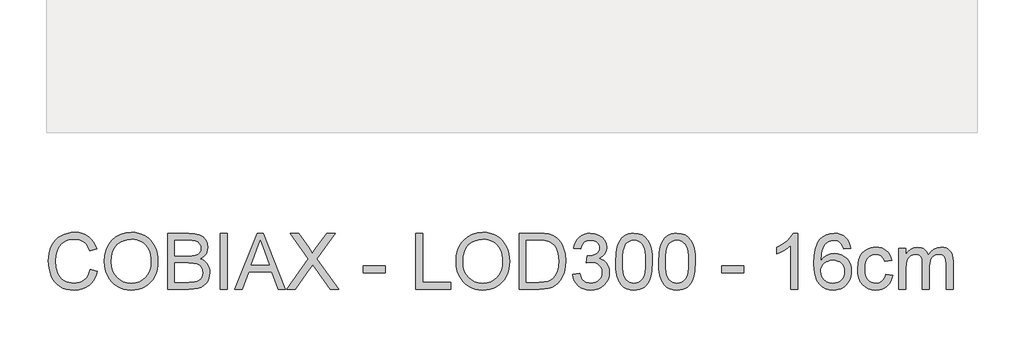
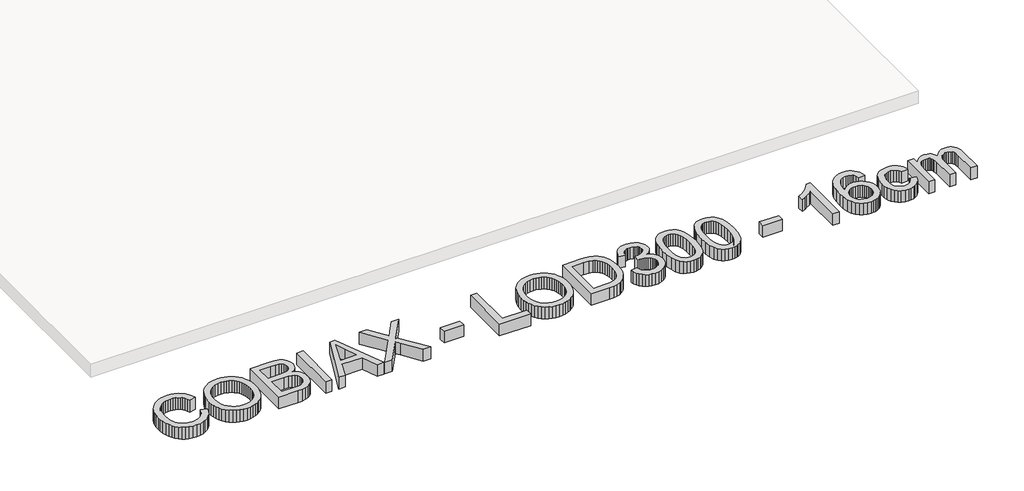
# One storey, part 16 of 18: 1 proxy.
"""IFC4 building model written with IfcOpenShell, lengths in millimetres."""

from ifc_helpers import new_model, si_unit, origin, origin_with_axes, place, context, project, spatial, polyline, outline, extrude, element, save

model = new_model("IFC4")

# Units and contexts
model_context = context("Model", 3, world=origin())
ifc_project = project(units=[si_unit("LENGTHUNIT", "METRE", prefix="MILLI")], contexts=[model_context])

# Site, building, storey
site = spatial("IfcSite", under=ifc_project)
building = spatial("IfcBuilding", under=site)
storey = spatial("IfcBuildingStorey", under=building, Name="COBIAX Slabs", Elevation=0.0)

# Proxy
placement = place(None, origin())
element("IfcBuildingElementProxy", 1, Name="600mm Arial", ObjectType="600mm Arial", at=placement, inside=storey, context=model_context, shape_type="SweptSolid", body=[
    extrude(outline(polyline([(-20201.7846047, 9905.258219), (-20126.4423721, 9885.8340497), (-20141.35079, 9838.9796791), (-20161.2072206, 9798.0390115), (-20186.0116642, 9763.0120471), (-20215.7641205, 9733.8987857), (-20249.7932051, 9711.0119271), (-20287.4275332, 9694.6641709), (-20328.6671048, 9684.8555172), (-20373.5119201, 9681.585966), (-20419.4557827, 9684.0599724), (-20460.902288, 9691.4819916), (-20497.8514359, 9703.8520237), (-20530.3032264, 9721.1700687), (-20558.7037164, 9743.178609), (-20583.4989629, 9769.6201274), (-20604.6889658, 9800.4946239), (-20622.2737252, 9835.8020983), (-20636.0830956, 9874.0158406), (-20645.9469316, 9913.6091403), (-20651.8652332, 9954.5819975), (-20653.8380004, 9996.9344122), (-20651.6077158, 10042.3770357), (-20644.916862, 10084.8214209), (-20633.765439, 10124.2675678), (-20618.1534469, 10160.7154765), (-20598.4303734, 10193.5627401), (-20574.9457065, 10222.206952), (-20547.6994462, 10246.648112), (-20516.6915926, 10266.8862203), (-20482.9752077, 10282.7557299), (-20447.6033539, 10294.0910938), (-20410.5760311, 10300.8923122), (-20371.8932393, 10303.159385), (-20328.8004621, 10300.2255261), (-20289.2853373, 10291.4239494), (-20253.3478649, 10276.7546548), (-20220.9880449, 10256.2176424), (-20192.7393062, 10230.3555382), (-20169.1350776, 10199.710968), (-20150.1753593, 10164.2839318), (-20135.8601512, 10124.0744298), (-20211.2023838, 10106.1217884), (-20223.0665781, 10135.7500846), (-20237.3220054, 10161.0649644), (-20253.9686657, 10182.0664278), (-20273.006559, 10198.7544748), (-20294.5460498, 10211.4693962), (-20318.6975028, 10220.551483), (-20345.4609179, 10226.0007351), (-20374.8362952, 10227.8171524), (-20408.6354535, 10225.8029985), (-20439.5467382, 10219.7605367), (-20467.5701492, 10209.6897671), (-20492.7056865, 10195.5906896), (-20514.6360519, 10178.0979008), (-20533.0439473, 10157.8459969), (-20547.9293725, 10134.8349781), (-20559.2923276, 10109.0648444), (-20573.6949077, 10053.9193333), (-20578.4957678, 9997.081565), (-20572.8119909, 9927.4782915), (-20565.7072699, 9896.208322), (-20555.7606605, 9867.2927971), (-20542.8112142, 9841.3065327), (-20526.6979829, 9818.8243443), (-20507.4209663, 9799.8462318), (-20484.9801646, 9784.3721954), (-20460.4654281, 9772.3654468), (-20434.9666074, 9763.7891978), (-20408.4837022, 9758.6434484), (-20381.0167128, 9756.9281986), (-20348.2614196, 9759.2642493), (-20318.1272857, 9766.2724013), (-20290.614311, 9777.9526546), (-20265.7224955, 9794.3050093), (-20244.0404504, 9815.2558889), (-20226.1567869, 9840.7317171), (-20212.071505, 9870.7324938), (-20201.7846047, 9905.258219)])), origin_with_axes(), (0.0, 0.0, 1.0), 150.0),
    extrude(outline(polyline([(-20051.1001395, 9984.4264244), (-20046.0785503, 10055.1241468), (-20031.0137825, 10117.7100713), (-20005.9058364, 10172.1841977), (-19989.5856714, 10196.3793367), (-19970.7547117, 10218.5465261), (-19927.6665331, 10255.5646519), (-19878.7474247, 10282.0061703), (-19823.9973868, 10297.8710813), (-19763.4164193, 10303.159385), (-19722.8666263, 10300.6761816), (-19684.3585785, 10293.2265712), (-19647.8922757, 10280.8105538), (-19613.467718, 10263.4281295), (-19582.0505956, 10241.6035302), (-19554.6065988, 10215.8609876), (-19531.1357275, 10186.2005017), (-19511.6379818, 10152.6220726), (-19496.3156967, 10115.8890554), (-19485.3712073, 10076.7648052), (-19478.8045137, 10035.249322), (-19476.6156158, 9991.3426059), (-19478.9194768, 9946.8564756), (-19485.8310598, 9904.7799724), (-19497.3503648, 9865.1130963), (-19513.4773917, 9827.8558473), (-19533.8304631, 9793.9923096), (-19558.0279014, 9764.5065677), (-19586.0697064, 9739.3986215), (-19617.9558784, 9718.6684711), (-19652.4310198, 9702.4448751), (-19688.2397335, 9690.8565922), (-19725.3820195, 9683.9036225), (-19763.8578777, 9681.585966), (-19805.1158434, 9684.1473444), (-19844.129729, 9691.8314795), (-19880.8995344, 9704.6383715), (-19915.4252597, 9722.5680202), (-19946.8055939, 9744.9260485), (-19974.1392261, 9771.018079), (-19997.4261564, 9800.8441118), (-20016.6663847, 9834.4041468), (-20031.7311524, 9870.3508162), (-20042.4917008, 9907.3367523), (-20048.9480298, 9945.361955), (-20051.1001395, 9984.4264244)]), holes=[polyline([(-19975.7579069, 9983.6906604), (-19971.9917149, 9933.7414825), (-19960.6931392, 9889.402505), (-19941.8621795, 9850.673728), (-19915.4988361, 9817.5551514), (-19883.4517158, 9791.0308595), (-19847.5694257, 9772.0849368), (-19807.8519657, 9760.7173831), (-19764.299336, 9756.9281986), (-19720.0017453, 9760.7541713), (-19679.8152359, 9772.2320896), (-19643.7398077, 9791.3619533), (-19611.7754608, 9818.1437626), (-19585.6052554, 9851.961315), (-19566.9122515, 9892.1984082), (-19555.6964492, 9938.8550422), (-19551.9578484, 9991.9312171), (-19553.5581351, 10026.4109571), (-19558.3589951, 10058.6282228), (-19566.3604285, 10088.5830143), (-19577.5624353, 10116.2753315), (-19591.8408552, 10141.3418909), (-19609.0715282, 10163.4194092), (-19629.2544541, 10182.5078862), (-19652.3896331, 10198.607322), (-19677.7596952, 10211.3866228), (-19704.6472705, 10220.5146948), (-19733.0523591, 10225.991538), (-19762.9749609, 10227.8171524), (-19805.0146759, 10224.2992808), (-19844.0193644, 10213.7456661), (-19879.9890265, 10196.1563082), (-19912.9236621, 10171.5312071), (-19940.4136442, 10138.6839435), (-19960.0493457, 10096.4280978), (-19971.8307666, 10044.7636701), (-19975.7579069, 9983.6906604)])]), origin_with_axes(), (0.0, 0.0, 1.0), 150.0),
    extrude(outline(polyline([(-19373.020046, 9691.003745), (-19373.020046, 10293.7416059), (-19143.0202226, 10293.7416059), (-19079.7629135, 10289.3086279), (-19030.3747557, 10276.0096938), (-19010.2975958, 10265.9527197), (-18992.5196984, 10253.5137098), (-18977.0410634, 10238.6926639), (-18963.8616909, 10221.4895821), (-18945.8170791, 10183.8184658), (-18939.8022085, 10144.3815159), (-18944.8605859, 10108.0899571), (-18960.0357182, 10073.968902), (-18985.43797, 10044.1152781), (-19021.1777058, 10020.6260127), (-18998.438, 10010.9323222), (-18978.4850002, 9998.3323638), (-18961.3187066, 9982.8261377), (-18946.9391192, 9964.4136439), (-18935.576164, 9943.6559023), (-18927.4597675, 9921.113933), (-18922.5899296, 9896.7877361), (-18920.9666503, 9870.6773115), (-18925.3996283, 9828.6467935), (-18938.6985625, 9789.6696962), (-18958.5457961, 9756.5235284), (-18982.6236727, 9731.9857993), (-19012.1094146, 9714.2170989), (-19048.1802442, 9701.3780173), (-19092.013384, 9693.5973131), (-19144.7860562, 9691.003745), (-19373.020046, 9691.003745)]), holes=[polyline([(-19297.6778134, 10048.87935), (-19160.0899472, 10048.87935), (-19111.9709822, 10050.4980307), (-19079.7445194, 10055.3540731), (-19051.6199409, 10066.5192916), (-19031.4048253, 10083.2395283), (-19019.2095371, 10105.2572657), (-19015.1444411, 10132.3149865), (-19018.9336256, 10158.5817609), (-19030.3011793, 10181.464021), (-19048.7320672, 10199.3246919), (-19073.7112547, 10210.5266986), (-19112.0445586, 10216.4312047), (-19170.5377958, 10218.3993733), (-19297.6778134, 10218.3993733), (-19297.6778134, 10048.87935)]), polyline([(-19297.6778134, 9766.3459777), (-19143.1673754, 9766.3459777), (-19087.2493121, 9769.2890336), (-19061.2952374, 9775.818939), (-19039.9396875, 9785.6965706), (-19022.5756574, 9799.8416333), (-19008.5961416, 9819.1738322), (-18999.3806976, 9842.8286445), (-18996.3088829, 9869.9415475), (-18999.9141265, 9901.4322463), (-19010.7298571, 9928.5083611), (-19029.6205976, 9949.67997), (-19057.4508705, 9963.4571507), (-19096.8694263, 9971.0171257), (-19150.5250153, 9973.5371173), (-19297.6778134, 9973.5371173), (-19297.6778134, 9766.3459777)])]), origin_with_axes(), (0.0, 0.0, 1.0), 150.0),
    extrude(outline(polyline([(-18807.9533014, 9691.003745), (-18807.9533014, 10293.7416059), (-18732.6110688, 10293.7416059), (-18732.6110688, 9691.003745), (-18807.9533014, 9691.003745)])), origin_with_axes(), (0.0, 0.0, 1.0), 150.0),
    extrude(outline(polyline([(-18652.1184882, 9691.003745), (-18411.5236634, 10293.7416059), (-18347.3650434, 10293.7416059), (-18106.7702186, 9691.003745), (-18186.3798823, 9691.003745), (-18255.3945446, 9879.3593266), (-18503.641315, 9879.3593266), (-18572.5088245, 9691.003745), (-18652.1184882, 9691.003745)]), holes=[polyline([(-18475.9765889, 9954.7015592), (-18282.9121179, 9954.7015592), (-18337.2115004, 10102.8844268), (-18379.4443534, 10218.3993733), (-18416.9683169, 10115.8338731), (-18475.9765889, 9954.7015592)])]), origin_with_axes(), (0.0, 0.0, 1.0), 150.0),
    extrude(outline(polyline([(-18092.2020916, 9691.003745), (-17859.8478234, 10019.4487903), (-18054.5309753, 10293.7416059), (-17964.1791572, 10293.7416059), (-17854.5503227, 10139.3783208), (-17828.3939128, 10100.2724647), (-17817.6149704, 10079.1928264), (-17774.3520477, 10140.4083904), (-17665.9004356, 10293.7416059), (-17574.2242424, 10293.7416059), (-17768.9073942, 10018.5658736), (-17536.5531261, 9691.003745), (-17626.9049441, 9691.003745), (-17781.7096876, 9909.3784974), (-17813.9361504, 9954.7015592), (-17849.3999748, 9904.9639134), (-18000.5258984, 9691.003745), (-18092.2020916, 9691.003745)])), origin_with_axes(), (0.0, 0.0, 1.0), 150.0),
    extrude(outline(polyline([(-17272.8553119, 9869.9415475), (-17272.8553119, 9945.2837801), (-17037.410835, 9945.2837801), (-17037.410835, 9869.9415475), (-17272.8553119, 9869.9415475)])), origin_with_axes(), (0.0, 0.0, 1.0), 150.0),
    extrude(outline(polyline([(-16707.7885673, 9691.003745), (-16707.7885673, 10293.7416059), (-16632.4463347, 10293.7416059), (-16632.4463347, 9766.3459777), (-16331.0774043, 9766.3459777), (-16331.0774043, 9691.003745), (-16707.7885673, 9691.003745)])), origin_with_axes(), (0.0, 0.0, 1.0), 150.0),
    extrude(outline(polyline([(-16274.5707298, 9984.4264244), (-16269.5491406, 10055.1241468), (-16254.4843729, 10117.7100713), (-16229.3764267, 10172.1841977), (-16213.0562617, 10196.3793367), (-16194.2253021, 10218.5465261), (-16151.1371234, 10255.5646519), (-16102.2180151, 10282.0061703), (-16047.4679771, 10297.8710813), (-15986.8870096, 10303.159385), (-15946.3372167, 10300.6761816), (-15907.8291688, 10293.2265712), (-15871.362866, 10280.8105538), (-15836.9383083, 10263.4281295), (-15805.5211859, 10241.6035302), (-15778.0771891, 10215.8609876), (-15754.6063178, 10186.2005017), (-15735.1085721, 10152.6220726), (-15719.786287, 10115.8890554), (-15708.8417976, 10076.7648052), (-15702.275104, 10035.249322), (-15700.0862061, 9991.3426059), (-15702.3900671, 9946.8564756), (-15709.3016501, 9904.7799724), (-15720.8209551, 9865.1130963), (-15736.947982, 9827.8558473), (-15757.3010534, 9793.9923096), (-15781.4984917, 9764.5065677), (-15809.5402967, 9739.3986215), (-15841.4264687, 9718.6684711), (-15875.9016102, 9702.4448751), (-15911.7103239, 9690.8565922), (-15948.8526098, 9683.9036225), (-15987.328468, 9681.585966), (-16028.5864337, 9684.1473444), (-16067.6003193, 9691.8314795), (-16104.3701247, 9704.6383715), (-16138.89585, 9722.5680202), (-16170.2761842, 9744.9260485), (-16197.6098164, 9771.018079), (-16220.8967467, 9800.8441118), (-16240.1369751, 9834.4041468), (-16255.2017428, 9870.3508162), (-16265.9622911, 9907.3367523), (-16272.4186201, 9945.361955), (-16274.5707298, 9984.4264244)]), holes=[polyline([(-16199.2284972, 9983.6906604), (-16195.4623053, 9933.7414825), (-16184.1637295, 9889.402505), (-16165.3327699, 9850.673728), (-16138.9694264, 9817.5551514), (-16106.9223061, 9791.0308595), (-16071.040016, 9772.0849368), (-16031.3225561, 9760.7173831), (-15987.7699264, 9756.9281986), (-15943.4723356, 9760.7541713), (-15903.2858262, 9772.2320896), (-15867.210398, 9791.3619533), (-15835.2460512, 9818.1437626), (-15809.0758457, 9851.961315), (-15790.3828418, 9892.1984082), (-15779.1670395, 9938.8550422), (-15775.4284387, 9991.9312171), (-15777.0287254, 10026.4109571), (-15781.8295855, 10058.6282228), (-15789.8310189, 10088.5830143), (-15801.0330256, 10116.2753315), (-15815.3114455, 10141.3418909), (-15832.5421185, 10163.4194092), (-15852.7250445, 10182.5078862), (-15875.8602234, 10198.607322), (-15901.2302855, 10211.3866228), (-15928.1178608, 10220.5146948), (-15956.5229494, 10225.991538), (-15986.4455512, 10227.8171524), (-16028.4852662, 10224.2992808), (-16067.4899547, 10213.7456661), (-16103.4596168, 10196.1563082), (-16136.3942524, 10171.5312071), (-16163.8842345, 10138.6839435), (-16183.519936, 10096.4280978), (-16195.3013569, 10044.7636701), (-16199.2284972, 9983.6906604)])]), origin_with_axes(), (0.0, 0.0, 1.0), 150.0),
    extrude(outline(polyline([(-15596.4906363, 9691.003745), (-15596.4906363, 10293.7416059), (-15388.5637326, 10293.7416059), (-15326.4284636, 10291.5711022), (-15280.9950372, 10285.0595909), (-15232.9496487, 10268.3209601), (-15192.4090528, 10241.943821), (-15170.0694186, 10220.3859361), (-15150.7280227, 10196.032148), (-15134.3848651, 10168.8824568), (-15121.0399457, 10138.9368624), (-15110.6748705, 10106.4712763), (-15103.2712454, 10071.7616101), (-15097.3483452, 9995.6100371), (-15101.358259, 9930.9179882), (-15113.3880002, 9873.9882494), (-15131.7085236, 9825.5197966), (-15154.5907837, 9786.2116054), (-15180.9311345, 9755.1807591), (-15209.6259302, 9731.5443409), (-15242.5697628, 9714.0147638), (-15281.6572248, 9701.3044409), (-15326.9618925, 9693.578919), (-15378.5573423, 9691.003745), (-15596.4906363, 9691.003745)]), holes=[polyline([(-15521.1484037, 9766.3459777), (-15387.8279686, 9766.3459777), (-15332.6824575, 9769.0683044), (-15290.8542747, 9777.2352847), (-15259.2899995, 9790.3686719), (-15234.9362114, 9807.9902195), (-15208.7614075, 9840.6029584), (-15189.0981148, 9882.8174173), (-15176.7924621, 9934.8175374), (-15172.6905778, 9996.7872594), (-15174.7001332, 10040.5284287), (-15180.7287994, 10078.8985208), (-15190.7765764, 10111.8975357), (-15204.8434642, 10139.5254736), (-15221.7890286, 10162.4077337), (-15240.4728355, 10181.1697154), (-15260.8948847, 10195.8114188), (-15283.0551764, 10206.3328439), (-15326.3916754, 10215.382741), (-15389.8881078, 10218.3993733), (-15521.1484037, 10218.3993733), (-15521.1484037, 9766.3459777)])]), origin_with_axes(), (0.0, 0.0, 1.0), 150.0),
    extrude(outline(polyline([(-15022.0061126, 9851.1059893), (-14946.66388, 9860.5237684), (-14929.7964905, 9813.1773556), (-14918.4243384, 9795.2706995), (-14905.0932146, 9781.2084103), (-14889.4996165, 9770.5858177), (-14871.3400415, 9762.9982515), (-14850.6144896, 9758.4457118), (-14827.3229608, 9756.9281986), (-14800.0261167, 9759.0159289), (-14775.6723287, 9765.2791199), (-14754.2615965, 9775.7177715), (-14735.7939204, 9790.3318837), (-14720.9222907, 9808.0270077), (-14710.2996981, 9827.7086945), (-14703.9261425, 9849.376944), (-14701.801624, 9873.0317563), (-14703.9077484, 9895.5599299), (-14710.2261217, 9916.0555556), (-14720.7567438, 9934.5186332), (-14735.4996148, 9950.9491628), (-14753.4890443, 9964.4366365), (-14773.7593423, 9974.0705462), (-14796.3105086, 9979.8508921), (-14821.1425433, 9981.777674), (-14844.9445083, 9979.7175349), (-14873.9703978, 9973.5371173), (-14865.5826883, 10048.87935), (-14853.5161588, 10047.9964332), (-14808.377038, 10053.4042985), (-14768.0203832, 10069.6278945), (-14751.4105111, 10081.896759), (-14739.5463167, 10097.0718913), (-14732.4278001, 10115.1532914), (-14730.0549612, 10136.1409592), (-14731.7748096, 10153.1784941), (-14736.9343546, 10168.6801217), (-14745.5335962, 10182.6458419), (-14757.5725345, 10195.0756548), (-14772.3246025, 10205.2797817), (-14789.0632333, 10212.5684437), (-14828.5001832, 10218.3993733), (-14849.1567572, 10216.9278454), (-14868.0107094, 10212.5132614), (-14885.0620399, 10205.1556215), (-14900.3107486, 10194.8549256), (-14913.3797565, 10181.6111738), (-14923.8919845, 10165.424366), (-14931.8474327, 10146.2945023), (-14937.2461009, 10124.2215826), (-15012.5883335, 10133.6393616), (-15003.6579981, 10169.6090237), (-14990.4050492, 10201.2928606), (-14972.8294869, 10228.6908721), (-14950.9313112, 10251.8030585), (-14925.4003007, 10270.151173), (-14896.9262343, 10283.2569691), (-14865.5091119, 10291.1204467), (-14831.1489335, 10293.7416059), (-14783.7841266, 10288.5728639), (-14740.2820807, 10273.0666378), (-14703.6042458, 10248.6024851), (-14676.7120719, 10216.5599634), (-14660.2125645, 10179.6430051), (-14654.7127286, 10140.5555432), (-14659.936653, 10104.1352256), (-14675.608426, 10071.0994225), (-14701.5073184, 10042.9564498), (-14737.4126012, 10021.2146239), (-14712.304655, 10013.3603433), (-14690.2501294, 10002.1583366), (-14671.2490243, 9987.6086037), (-14655.3013398, 9969.7111446), (-14642.6829874, 9948.9074178), (-14633.6698785, 9925.6388816), (-14628.2620132, 9899.905536), (-14626.4593914, 9871.7073811), (-14630.064635, 9833.4844418), (-14640.8803656, 9798.2781348), (-14658.9065834, 9766.0884603), (-14684.1432883, 9736.915418), (-14714.889026, 9712.7087828), (-14749.4423424, 9695.418329), (-14787.8032374, 9685.0440567), (-14829.9717111, 9681.585966), (-14868.0842858, 9684.538219), (-14902.8123462, 9693.394978), (-14934.1558922, 9708.1562431), (-14962.1149238, 9728.8220142), (-14985.5582039, 9754.1782807), (-15003.3544955, 9783.011032), (-15015.5037984, 9815.3202683), (-15022.0061126, 9851.1059893)])), origin_with_axes(), (0.0, 0.0, 1.0), 150.0),
    extrude(outline(polyline([(-14560.5349379, 9987.5166332), (-14554.9983138, 10083.9936864), (-14548.0775338, 10124.9067628), (-14538.3884418, 10160.9362057), (-14525.9724244, 10192.3763207), (-14510.8708685, 10219.5214134), (-14493.0837741, 10242.3714838), (-14472.611141, 10260.926532), (-14449.3839916, 10275.2831268), (-14423.3333478, 10285.5378375), (-14394.4592097, 10291.6906638), (-14362.7615773, 10293.7416059), (-14316.3348695, 10288.8855636), (-14274.764204, 10274.3174366), (-14239.9993555, 10250.607442), (-14213.9900984, 10218.3257969), (-14194.3451999, 10177.7484129), (-14178.6734269, 10129.1512013), (-14168.4095192, 10067.4389966), (-14164.9882167, 9987.5166332), (-14170.4696584, 9891.5914029), (-14177.3214605, 9850.8162823), (-14186.9139836, 9814.8328246), (-14199.2334319, 9783.378914), (-14214.2660099, 9756.1924346), (-14232.0117177, 9733.2733863), (-14252.4705551, 9714.6217691), (-14275.7252957, 9700.1686053), (-14301.858713, 9689.8449168), (-14330.8708068, 9683.6507037), (-14362.7615773, 9681.585966), (-14404.2586663, 9685.1728154), (-14441.0468658, 9695.9333638), (-14473.1261758, 9713.867611), (-14500.4965963, 9738.9755572), (-14526.7633707, 9784.3629984), (-14545.5253525, 9840.9156581), (-14556.7825415, 9908.6335363), (-14560.5349379, 9987.5166332)]), holes=[polyline([(-14485.1927053, 9987.663786), (-14482.9854133, 9922.1669952), (-14476.3635374, 9869.1506012), (-14465.3270775, 9828.6146039), (-14449.8760337, 9800.5590032), (-14431.1876284, 9781.4705262), (-14410.4390838, 9767.8358997), (-14387.6304001, 9759.6551239), (-14362.7615773, 9756.9281986), (-14337.8927544, 9759.6643209), (-14315.0840707, 9767.8726879), (-14294.3355262, 9781.5532996), (-14275.6471208, 9800.706156), (-14260.196077, 9828.8077419), (-14249.1596172, 9869.3345422), (-14242.5377412, 9922.2865569), (-14240.3304493, 9987.663786), (-14242.4641648, 10051.4269328), (-14248.8653116, 10103.5098262), (-14259.5338894, 10143.9124664), (-14274.4698984, 10172.6348531), (-14292.8456041, 10192.6568307), (-14313.8332719, 10206.9582433), (-14337.4329019, 10215.5390908), (-14363.6444941, 10218.3993733), (-14388.3845582, 10215.8793817), (-14410.8069658, 10208.3194067), (-14430.9117169, 10195.7194483), (-14448.6988113, 10178.0795067), (-14464.6648899, 10146.8095371), (-14476.0692318, 10104.6502604), (-14482.9118369, 10051.6016767), (-14485.1927053, 9987.663786)])]), origin_with_axes(), (0.0, 0.0, 1.0), 150.0),
    extrude(outline(polyline([(-14099.0637631, 9987.5166332), (-14093.5271391, 10083.9936864), (-14086.6063591, 10124.9067628), (-14076.917267, 10160.9362057), (-14064.5012497, 10192.3763207), (-14049.3996938, 10219.5214134), (-14031.6125993, 10242.3714838), (-14011.1399663, 10260.926532), (-13987.9128168, 10275.2831268), (-13961.862173, 10285.5378375), (-13932.9880349, 10291.6906638), (-13901.2904025, 10293.7416059), (-13854.8636947, 10288.8855636), (-13813.2930293, 10274.3174366), (-13778.5281807, 10250.607442), (-13752.5189237, 10218.3257969), (-13732.8740251, 10177.7484129), (-13717.2022521, 10129.1512013), (-13706.9383445, 10067.4389966), (-13703.5170419, 9987.5166332), (-13708.9984836, 9891.5914029), (-13715.8502858, 9850.8162823), (-13725.4428088, 9814.8328246), (-13737.7622571, 9783.378914), (-13752.7948352, 9756.1924346), (-13770.5405429, 9733.2733863), (-13790.9993804, 9714.6217691), (-13814.254121, 9700.1686053), (-13840.3875382, 9689.8449168), (-13869.3996321, 9683.6507037), (-13901.2904025, 9681.585966), (-13942.7874916, 9685.1728154), (-13979.5756911, 9695.9333638), (-14011.6550011, 9713.867611), (-14039.0254215, 9738.9755572), (-14065.292196, 9784.3629984), (-14084.0541777, 9840.9156581), (-14095.3113668, 9908.6335363), (-14099.0637631, 9987.5166332)]), holes=[polyline([(-14023.7215305, 9987.663786), (-14021.5142385, 9922.1669952), (-14014.8923626, 9869.1506012), (-14003.8559028, 9828.6146039), (-13988.404859, 9800.5590032), (-13969.7164536, 9781.4705262), (-13948.9679091, 9767.8358997), (-13926.1592254, 9759.6551239), (-13901.2904025, 9756.9281986), (-13876.4215796, 9759.6643209), (-13853.6128959, 9767.8726879), (-13832.8643514, 9781.5532996), (-13814.1759461, 9800.706156), (-13798.7249023, 9828.8077419), (-13787.6884424, 9869.3345422), (-13781.0665665, 9922.2865569), (-13778.8592745, 9987.663786), (-13780.9929901, 10051.4269328), (-13787.3941368, 10103.5098262), (-13798.0627147, 10143.9124664), (-13812.9987237, 10172.6348531), (-13831.3744293, 10192.6568307), (-13852.3620972, 10206.9582433), (-13875.9617271, 10215.5390908), (-13902.1733193, 10218.3993733), (-13926.9133835, 10215.8793817), (-13949.3357911, 10208.3194067), (-13969.4405421, 10195.7194483), (-13987.2276366, 10178.0795067), (-14003.1937152, 10146.8095371), (-14014.598057, 10104.6502604), (-14021.4406621, 10051.6016767), (-14023.7215305, 9987.663786)])]), origin_with_axes(), (0.0, 0.0, 1.0), 150.0),
    extrude(outline(polyline([(-13420.9836696, 9869.9415475), (-13420.9836696, 9945.2837801), (-13185.5391927, 9945.2837801), (-13185.5391927, 9869.9415475), (-13420.9836696, 9869.9415475)])), origin_with_axes(), (0.0, 0.0, 1.0), 150.0),
    extrude(outline(polyline([(-12601.63689, 9691.003745), (-12676.9791226, 9691.003745), (-12676.9791226, 10160.7154765), (-12708.4330332, 10135.2764365), (-12748.3482296, 10109.8741848), (-12790.2499889, 10087.6725063), (-12827.6635878, 10071.8351865), (-12827.6635878, 10143.0571407), (-12768.4897689, 10175.2468153), (-12717.2254128, 10213.543331), (-12676.8135757, 10254.2678679), (-12650.1973133, 10293.7416059), (-12601.63689, 10293.7416059), (-12601.63689, 9691.003745)])), origin_with_axes(), (0.0, 0.0, 1.0), 150.0),
    extrude(outline(polyline([(-12036.5701454, 10133.6393616), (-12111.912378, 10124.2215826), (-12124.0524838, 10161.5616051), (-12140.4600208, 10187.0558273), (-12156.6560256, 10200.7686287), (-12174.6362582, 10210.5634868), (-12194.4007183, 10216.4404017), (-12215.9494062, 10218.3993733), (-12250.9717722, 10213.8376366), (-12283.9339989, 10200.1524264), (-12312.2425184, 10171.328872), (-12335.3639018, 10131.6527989), (-12344.4000034, 10106.3471161), (-12350.9804925, 10075.5324005), (-12356.774634, 9997.3758706), (-12326.5531281, 10032.6373599), (-12290.3351456, 10057.4877886), (-12250.1440377, 10072.2214625), (-12208.0031551, 10077.1326872), (-12171.8035668, 10073.775764), (-12138.3998816, 10063.7049944), (-12107.7920996, 10046.9203783), (-12079.9802208, 10023.4219159), (-12056.8680344, 9994.6075586), (-12040.3593299, 9961.8752581), (-12030.4541072, 9925.2250143), (-12027.1523663, 9884.6568273), (-12028.7066677, 9857.1898378), (-12033.369572, 9830.7069327), (-12041.1410792, 9805.2081119), (-12052.0211892, 9780.6933755), (-12065.6236259, 9758.0778298), (-12081.5621134, 9738.2765814), (-12099.8366515, 9721.2896303), (-12120.4472403, 9707.1169764), (-12142.9524213, 9695.9471594), (-12166.9107363, 9687.9687186), (-12192.3221851, 9683.1816541), (-12219.1867678, 9681.585966), (-12264.1005609, 9685.8166089), (-12304.6641493, 9698.5085377), (-12340.8775332, 9719.6617525), (-12372.7407126, 9749.2762531), (-12398.7177799, 9788.6028384), (-12417.2728281, 9838.8923071), (-12428.4058569, 9900.1446593), (-12432.1168666, 9972.359895), (-12427.9965882, 10053.321525), (-12415.6357532, 10122.4189608), (-12395.0343615, 10179.6522022), (-12381.6434568, 10203.81975), (-12366.192413, 10225.0212492), (-12334.9316405, 10255.0864053), (-12298.6860669, 10276.5615168), (-12257.4556923, 10289.4465837), (-12211.2405167, 10293.7416059), (-12176.5400475, 10291.0836585), (-12145.1321221, 10283.1098163), (-12117.0167407, 10269.8200792), (-12092.193903, 10251.2144473), (-12071.3349939, 10227.91832), (-12055.1113979, 10200.5570966), (-12043.5231151, 10169.1307771), (-12036.5701454, 10133.6393616)]), holes=[polyline([(-12356.774634, 9885.8340497), (-12352.4152323, 9852.4487586), (-12339.3370274, 9820.5717837), (-12319.0299413, 9793.1645751), (-12292.983896, 9773.1885828), (-12261.5483795, 9760.9932946), (-12225.0728797, 9756.9281986), (-12198.8842802, 9759.034323), (-12175.353628, 9765.3526963), (-12154.4809233, 9775.8833184), (-12136.2661661, 9790.6261893), (-12121.4911054, 9808.9835009), (-12110.9374907, 9830.3574448), (-12104.6053218, 9854.7480211), (-12102.4945989, 9882.1552297), (-12104.5777307, 9908.4909821), (-12110.8271261, 9931.8744814), (-12121.2427851, 9952.3057277), (-12135.8247077, 9969.784721), (-12154.0946472, 9983.7872294), (-12175.5743572, 9993.7890212), (-12200.2638376, 9999.7900962), (-12228.1630885, 10001.7904546), (-12254.0022001, 9999.7900962), (-12277.8087637, 9993.7890212), (-12299.5827793, 9983.7872294), (-12319.3242469, 9969.784721), (-12335.7087912, 9952.5356539), (-12347.4120372, 9932.7941864), (-12354.4339848, 9910.5603183), (-12356.774634, 9885.8340497)])]), origin_with_axes(), (0.0, 0.0, 1.0), 150.0),
    extrude(outline(polyline([(-11659.8589823, 9851.1059893), (-11584.5167497, 9841.6882103), (-11592.7113211, 9806.137014), (-11605.5228116, 9774.6785048), (-11622.9512211, 9747.3126829), (-11644.9965497, 9724.0395482), (-11670.7298953, 9705.466106), (-11699.2223558, 9692.1993615), (-11730.4739313, 9684.2393149), (-11764.4846217, 9681.585966), (-11806.7404674, 9685.2877785), (-11844.6277144, 9696.3932163), (-11878.1463627, 9714.9022792), (-11907.2964123, 9740.8149672), (-11930.8914437, 9773.6438367), (-11947.7450376, 9812.9014441), (-11957.857194, 9858.5877894), (-11961.2279127, 9910.7028726), (-11955.4705595, 9977.7493662), (-11948.273868, 10007.9202883), (-11938.1984999, 10035.8563273), (-11925.1754772, 10060.9964632), (-11909.1358222, 10082.7796758), (-11890.0795349, 10101.2059652), (-11868.0066152, 10116.2753315), (-11843.914943, 10127.992373), (-11818.8023983, 10136.3616884), (-11792.6689811, 10141.3832776), (-11765.5146913, 10143.0571407), (-11732.0880135, 10140.7578783), (-11701.8527121, 10133.8600908), (-11674.8087869, 10122.3637785), (-11650.956238, 10106.2689412), (-11630.6997357, 10085.943461), (-11614.44395, 10061.7552198), (-11602.188881, 10033.7042177), (-11593.9345288, 10001.7904546), (-11669.2767614, 9992.3726755), (-11682.9435775, 10025.2429318), (-11704.2255509, 10048.8057736), (-11731.9454593, 10062.9876245), (-11764.9260801, 10067.7149081), (-11790.5260685, 10065.3880545), (-11813.6152622, 10058.4074936), (-11834.1936613, 10046.7732255), (-11852.2612658, 10030.4852502), (-11866.9719471, 10009.1664886), (-11877.4795765, 9982.4398616), (-11883.7841542, 9950.3053693), (-11885.8856801, 9912.7630117), (-11883.8301395, 9874.6550356), (-11877.6635175, 9842.1480628), (-11867.3858143, 9815.2420933), (-11852.9970298, 9793.9371273), (-11835.2881102, 9777.745721), (-11815.050002, 9766.1804308), (-11792.282705, 9759.2412566), (-11766.9862193, 9756.9281986), (-11727.9723337, 9762.7039459), (-11711.1003457, 9769.9236301), (-11695.9849942, 9780.0311879), (-11683.0493436, 9793.136984), (-11672.716458, 9809.3513829), (-11664.9863376, 9828.6743847), (-11659.8589823, 9851.1059893)])), origin_with_axes(), (0.0, 0.0, 1.0), 150.0),
    extrude(outline(polyline([(-11518.5922962, 9691.003745), (-11518.5922962, 10133.6393616), (-11443.2500635, 10133.6393616), (-11443.2500635, 10060.7987266), (-11420.5885326, 10094.2575941), (-11391.4522786, 10120.4691862), (-11356.8345829, 10137.4101521), (-11317.7287268, 10143.0571407), (-11275.8269675, 10137.2997875), (-11257.9938878, 10130.103096), (-11242.2393414, 10120.0277278), (-11217.1497893, 10092.3813959), (-11200.7422523, 10055.5012259), (-11173.2798614, 10093.8069386), (-11141.9547095, 10121.168162), (-11106.7667967, 10137.584896), (-11067.7161229, 10143.0571407), (-11037.5543978, 10140.7808709), (-11011.0806897, 10133.9520613), (-10988.2949986, 10122.5707121), (-10969.1973246, 10106.6368232), (-10954.1003672, 10085.9664536), (-10943.3168262, 10060.3756623), (-10936.8467016, 10029.8644493), (-10934.6899934, 9994.4328147), (-10934.6899934, 9691.003745), (-11010.032226, 9691.003745), (-11010.032226, 9962.0591991), (-11011.7796655, 9999.6383449), (-11017.0219839, 10024.9670203), (-11026.8444332, 10042.3126563), (-11042.3322652, 10055.9426843), (-11062.2530752, 10064.7718521), (-11085.3744586, 10067.7149081), (-11106.7254099, 10065.8295129), (-11126.190966, 10060.1733272), (-11143.7711268, 10050.7463511), (-11159.4658925, 10037.5485845), (-11172.373952, 10020.1937514), (-11181.5939945, 9998.2955756), (-11187.12602, 9971.8540572), (-11188.9700285, 9940.8691962), (-11188.9700285, 9691.003745), (-11264.3122611, 9691.003745), (-11264.3122611, 9970.4469086), (-11268.6716627, 10013.0476436), (-11274.1209148, 10029.7678803), (-11281.7498677, 10043.4346964), (-11291.862024, 10054.057289), (-11304.7608865, 10061.6448552), (-11320.446455, 10066.1973949), (-11338.9187297, 10067.7149081), (-11367.9446191, 10063.6682062), (-11394.6896402, 10051.5281003), (-11416.7625599, 10031.5888962), (-11431.7721453, 10004.1448993), (-11440.380584, 9966.0691128), (-11443.2500635, 9914.2345397), (-11443.2500635, 9691.003745), (-11518.5922962, 9691.003745)])), origin_with_axes(), (0.0, 0.0, 1.0), 150.0),
])

save(model, "model.ifc")
